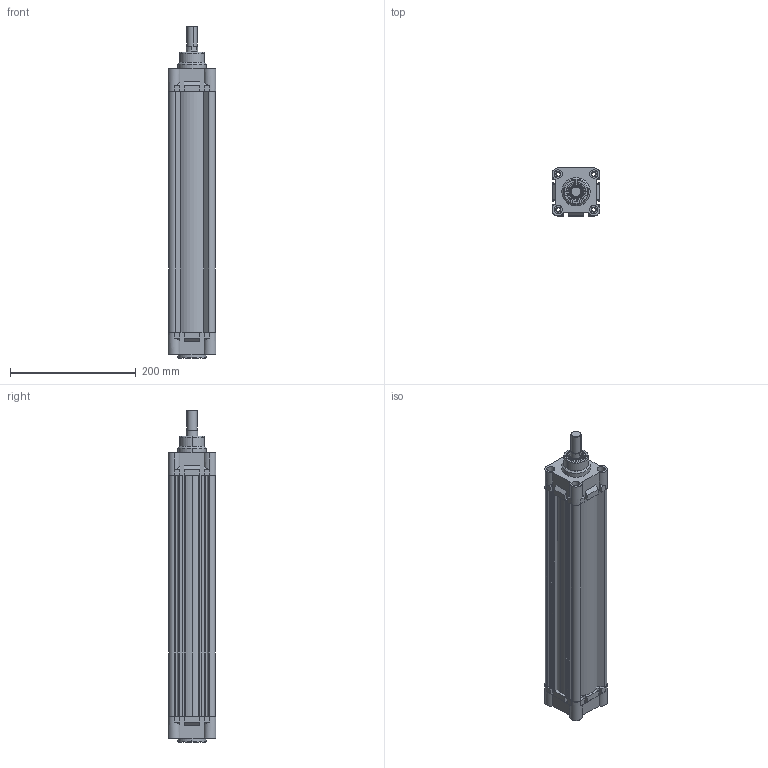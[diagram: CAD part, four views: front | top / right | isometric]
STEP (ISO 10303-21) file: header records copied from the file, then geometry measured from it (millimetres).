
FILE_DESCRIPTION (( 'STEP AP214' ), '1' );
FILE_NAME ('RIC_63_350_WEB.STEP', '2020-07-18T16:35:55', ( '' ), ( '' ), 'SwSTEP 2.0', 'SolidWorks 2018', '' );
FILE_SCHEMA (( 'AUTOMOTIVE_DESIGN' ));
Length unit declared in the file: millimetre
Products named in the file (7): ric63yastikkecesi; RIC_63_350_WEB; 63_BORU_WEB; ric63bogazkecesi; 20_K_MIL_WEB; ric63arkakapak; ric63onkapak
Assembly tree (7 placements, depth 2):
  RIC_63_350_WEB
    63_BORU_WEB
    ric63onkapak
    ric63arkakapak
    ric63bogazkecesi
    ric63yastikkecesi  x2
    20_K_MIL_WEB
Bounding box: 76 x 76 x 528 mm (x, y, z)
Volume: 978807.5 mm3; surface area: 341392.8 mm2
Topology: 7 solids, 7 shells, 709 faces, 1751 edges, 1102 vertices
Faces by surface type: plane 280, cylinder 220, torus 134, cone 56, bspline 19
Entity records: 21075 total; most frequent: CARTESIAN_POINT 4906, DIRECTION 3090, ORIENTED_EDGE 2910, EDGE_CURVE 1455, AXIS2_PLACEMENT_3D 1135, VERTEX_POINT 925, VECTOR 820, LINE 820
